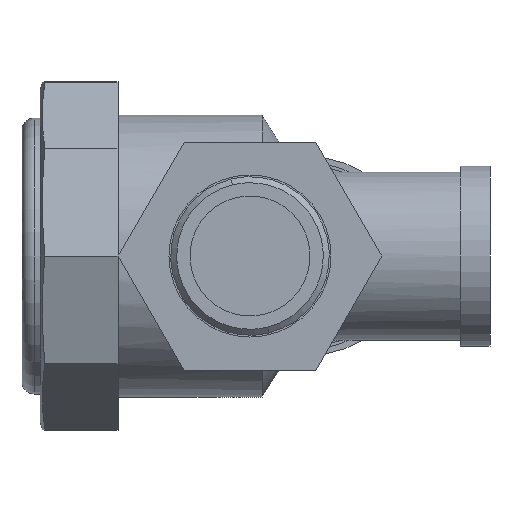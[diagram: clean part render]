
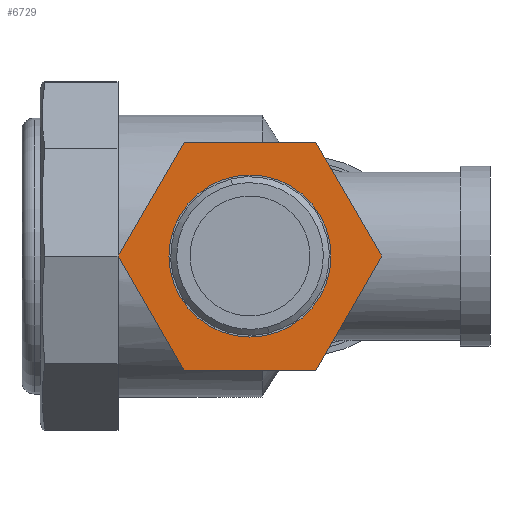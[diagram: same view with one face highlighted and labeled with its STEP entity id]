
A CAD part, left-side view. The second image highlights one B-rep face of the part: STEP entity #6729.
In plain terms, the highlighted planar face has unit normal (-1, 0, 0).
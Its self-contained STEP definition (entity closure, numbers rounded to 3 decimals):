
#3318 = DIRECTION ( 'NONE',  ( 0., -0.5, 0.866 ) ) ;
#3319 = VECTOR ( 'NONE', #3318, 1000. ) ;
#3320 = CARTESIAN_POINT ( 'NONE',  ( -53.434, -27.836, -19. ) ) ;
#3321 = LINE ( 'NONE', #3320, #3319 ) ;
#3322 = DIRECTION ( 'NONE',  ( 0., 1., 0. ) ) ;
#3323 = VECTOR ( 'NONE', #3322, 1000. ) ;
#3324 = CARTESIAN_POINT ( 'NONE',  ( -53.434, -27.836, 19. ) ) ;
#3325 = LINE ( 'NONE', #3324, #3323 ) ;
#3423 = CARTESIAN_POINT ( 'NONE',  ( -53.434, -5.897, -19. ) ) ;
#3499 = AXIS2_PLACEMENT_3D ( 'NONE', #3518, #3522, #3521 ) ;
#3500 = CIRCLE ( 'NONE', #3499, 13.5 ) ;
#3518 = CARTESIAN_POINT ( 'NONE',  ( -53.434, -16.867, 0. ) ) ;
#3521 = DIRECTION ( 'NONE',  ( 0., -1., 0. ) ) ;
#3522 = DIRECTION ( 'NONE',  ( -1., 0., 0. ) ) ;
#3525 = CARTESIAN_POINT ( 'NONE',  ( -53.434, -30.367, 0. ) ) ;
#3541 = DIRECTION ( 'NONE',  ( 0., 0.5, -0.866 ) ) ;
#3542 = VECTOR ( 'NONE', #3541, 1000. ) ;
#3543 = CARTESIAN_POINT ( 'NONE',  ( -53.434, -5.897, 19. ) ) ;
#3544 = LINE ( 'NONE', #3543, #3542 ) ;
#3661 = VECTOR ( 'NONE', #3727, 1000. ) ;
#3727 = DIRECTION ( 'NONE',  ( 0., -0.5, -0.866 ) ) ;
#3728 = CARTESIAN_POINT ( 'NONE',  ( -53.434, 5.073, 0. ) ) ;
#3768 = LINE ( 'NONE', #3728, #3661 ) ;
#3769 = CARTESIAN_POINT ( 'NONE',  ( -53.434, 5.073, 0. ) ) ;
#3770 = CARTESIAN_POINT ( 'NONE',  ( -53.434, -5.897, 19. ) ) ;
#3793 = DIRECTION ( 'NONE',  ( 0., -1., 0. ) ) ;
#3794 = DIRECTION ( 'NONE',  ( -1., 0., 0. ) ) ;
#3795 = CARTESIAN_POINT ( 'NONE',  ( -53.434, 5.073, 0. ) ) ;
#3796 = AXIS2_PLACEMENT_3D ( 'NONE', #3795, #3794, #3793 ) ;
#3797 = PLANE ( 'NONE',  #3796 ) ;
#3798 = FACE_BOUND ( 'NONE', #6566, .T. ) ;
#3799 = FACE_OUTER_BOUND ( 'NONE', #6730, .T. ) ;
#3810 = CARTESIAN_POINT ( 'NONE',  ( -53.434, -3.367, 0. ) ) ;
#3811 = DIRECTION ( 'NONE',  ( 0., -1., 0. ) ) ;
#3812 = DIRECTION ( 'NONE',  ( -1., 0., 0. ) ) ;
#3813 = CARTESIAN_POINT ( 'NONE',  ( -53.434, -16.867, 0. ) ) ;
#3814 = AXIS2_PLACEMENT_3D ( 'NONE', #3813, #3812, #3811 ) ;
#3819 = CIRCLE ( 'NONE', #3814, 13.5 ) ;
#3846 = CARTESIAN_POINT ( 'NONE',  ( -53.434, -27.836, -19. ) ) ;
#6533 = VERTEX_POINT ( 'NONE', #3423 ) ;
#6564 = ORIENTED_EDGE ( 'NONE', *, *, #6573, .T. ) ;
#6566 = EDGE_LOOP ( 'NONE', ( #6576, #6572 ) ) ;
#6572 = ORIENTED_EDGE ( 'NONE', *, *, #6608, .F. ) ;
#6573 = EDGE_CURVE ( 'NONE', #7026, #6686, #3325, .T. ) ;
#6574 = EDGE_CURVE ( 'NONE', #6824, #6852, #3321, .T. ) ;
#6575 = ORIENTED_EDGE ( 'NONE', *, *, #6966, .T. ) ;
#6576 = ORIENTED_EDGE ( 'NONE', *, *, #6713, .F. ) ;
#6608 = EDGE_CURVE ( 'NONE', #6619, #6714, #3500, .T. ) ;
#6619 = VERTEX_POINT ( 'NONE', #3525 ) ;
#6685 = EDGE_CURVE ( 'NONE', #6686, #6687, #3544, .T. ) ;
#6686 = VERTEX_POINT ( 'NONE', #3770 ) ;
#6687 = VERTEX_POINT ( 'NONE', #3769 ) ;
#6688 = ORIENTED_EDGE ( 'NONE', *, *, #6689, .T. ) ;
#6689 = EDGE_CURVE ( 'NONE', #6687, #6533, #3768, .T. ) ;
#6713 = EDGE_CURVE ( 'NONE', #6714, #6619, #3819, .T. ) ;
#6714 = VERTEX_POINT ( 'NONE', #3810 ) ;
#6729 = ADVANCED_FACE ( 'NONE', ( #3799, #3798 ), #3797, .T. ) ;
#6730 = EDGE_LOOP ( 'NONE', ( #6731, #6688, #6979, #6981, #6575, #6564 ) ) ;
#6731 = ORIENTED_EDGE ( 'NONE', *, *, #6685, .T. ) ;
#6824 = VERTEX_POINT ( 'NONE', #3846 ) ;
#6852 = VERTEX_POINT ( 'NONE', #11514 ) ;
#6966 = EDGE_CURVE ( 'NONE', #6852, #7026, #9117, .T. ) ;
#6979 = ORIENTED_EDGE ( 'NONE', *, *, #6980, .T. ) ;
#6980 = EDGE_CURVE ( 'NONE', #6533, #6824, #9134, .T. ) ;
#6981 = ORIENTED_EDGE ( 'NONE', *, *, #6574, .T. ) ;
#7026 = VERTEX_POINT ( 'NONE', #9219 ) ;
#9114 = DIRECTION ( 'NONE',  ( 0., 0.5, 0.866 ) ) ;
#9115 = VECTOR ( 'NONE', #9114, 1000. ) ;
#9116 = CARTESIAN_POINT ( 'NONE',  ( -53.434, -38.806, 0. ) ) ;
#9117 = LINE ( 'NONE', #9116, #9115 ) ;
#9131 = DIRECTION ( 'NONE',  ( 0., -1., 0. ) ) ;
#9132 = VECTOR ( 'NONE', #9131, 1000. ) ;
#9133 = CARTESIAN_POINT ( 'NONE',  ( -53.434, -5.897, -19. ) ) ;
#9134 = LINE ( 'NONE', #9133, #9132 ) ;
#9219 = CARTESIAN_POINT ( 'NONE',  ( -53.434, -27.836, 19. ) ) ;
#11514 = CARTESIAN_POINT ( 'NONE',  ( -53.434, -38.806, 0. ) ) ;
